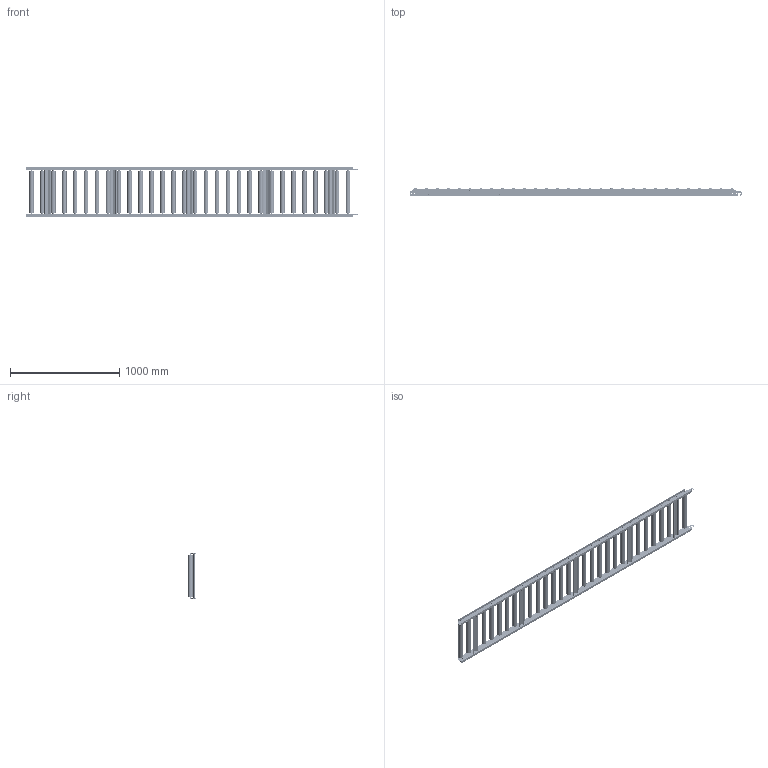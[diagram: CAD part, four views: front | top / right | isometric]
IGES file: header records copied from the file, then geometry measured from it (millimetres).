
Start section: SolidWorks IGES file using analytic representation for surfaces
Global section: file name: C:\Users\0656\Desktop\変換ツール\iges変換\SA-4218M.igs; native system: SolidWorks 2023; preprocessor: SolidWorks 2023; author: 0656; date: 240307.181234; units: millimetre
Bounding box: 3042 x 72.24 x 450 mm (x, y, z)
Surface area: 3855003.4 mm2 (no closed solid volume)
Topology: 0 solids, 0 shells, 2321 faces, 41116 edges, 41116 vertices
Faces by surface type: revolution 1221, bspline 1100
